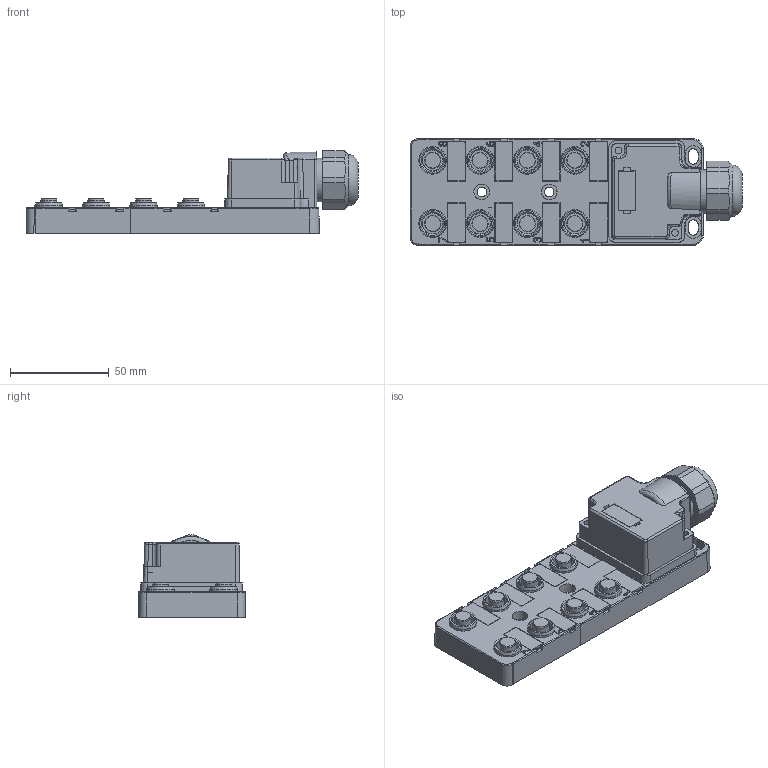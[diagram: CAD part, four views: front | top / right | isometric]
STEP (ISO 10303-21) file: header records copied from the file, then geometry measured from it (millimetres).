
FILE_DESCRIPTION((''),'2;1');
FILE_NAME('C:\Users\enrico\Desktop\Ale\Sito Web Mintec\AUTOMAZIONE_2020\FOTO & STEP Distributori passivi_ciabatte\A cablare\step\M12\ciabatta M12 8 vie a cablare con calotta.stp','2020-08-31T09:52:58',('Tecnico2'),(''),'Autodesk Inventor 2012','Autodesk Inventor 2012','');
FILE_SCHEMA(('AUTOMOTIVE_DESIGN { 1 0 10303 214 1 1 1 1 }'));
Length unit declared in the file: millimetre
Products named in the file (6): 47049-000; Ciab+8vie_M12_calotta_no led; 270101101_ins_fe NEUTRO; 0606725NI (ghiera femmina M12); 2701003BI targhettina ciabatte; 47600 calotta di connessione
Assembly tree (27 placements, depth 2):
  47049-000
    Ciab+8vie_M12_calotta_no led
    270101101_ins_fe NEUTRO  x8
    0606725NI (ghiera femmina M12)  x8
    2701003BI targhettina ciabatte  x9
    47600 calotta di connessione
Bounding box: 168.18 x 54 x 42 mm (x, y, z)
Volume: 87266.3 mm3; surface area: 79905.8 mm2
Topology: 27 solids, 50 shells, 2905 faces, 7850 edges, 5157 vertices
Faces by surface type: plane 1917, cylinder 477, cone 285, bspline 217, torus 9
Full cylindrical faces by diameter (mm): 0.876 x1, 4.8 x1, 4.87 x1, 5 x2, 8.044 x1, 8.2 x8, 10.8 x16, 13.7 x1, 14 x16, 17 x1, 22 x1
Entity records: 71086 total; most frequent: CARTESIAN_POINT 19409, ORIENTED_EDGE 11190, DIRECTION 9823, EDGE_CURVE 5595, VECTOR 3893, LINE 3893, VERTEX_POINT 3685, AXIS2_PLACEMENT_3D 2965
